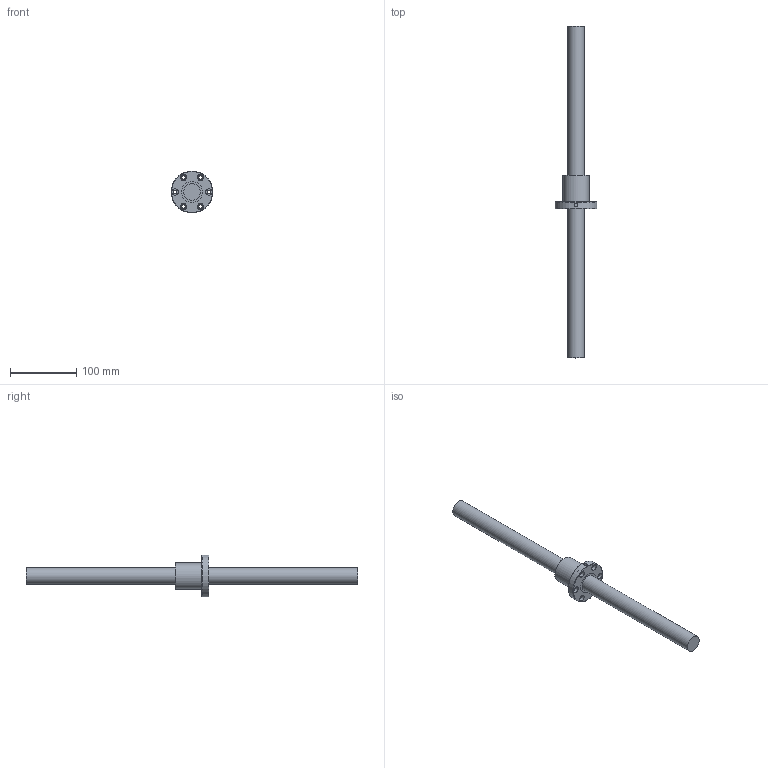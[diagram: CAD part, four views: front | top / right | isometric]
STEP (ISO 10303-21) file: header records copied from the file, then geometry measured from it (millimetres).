
FILE_DESCRIPTION(/* description */ (''),/* implementation_level */ '2;1');
FILE_NAME(/* name */ '2505.stp',/* time_stamp */ '2014-07-14T15:33:11+08:00',/* author */ (''),/* organization */ (''),/* preprocessor_version */ 'ST-DEVELOPER v11',/* originating_system */ 'SIEMENS UGS NX 6.0',/* authorisation */ '');
FILE_SCHEMA (('CONFIG_CONTROL_DESIGN'));
Length unit declared in the file: millimetre
Products named in the file (1): kcc27CCoveh
Bounding box: 63 x 500 x 63 mm (x, y, z)
Volume: 301676.9 mm3; surface area: 60959.5 mm2
Topology: 4 solids, 4 shells, 44 faces, 78 edges, 51 vertices
Faces by surface type: cylinder 23, plane 18, torus 3
Full cylindrical faces by diameter (mm): 5 x1, 5.5 x6, 9.5 x6, 25 x4, 32 x4, 40 x1, 63 x1
Entity records: 1104 total; most frequent: CARTESIAN_POINT 200, DIRECTION 186, EDGE_LOOP 98, ORIENTED_EDGE 98, FACE_BOUND 95, AXIS2_PLACEMENT_3D 93, VERTEX_POINT 49, EDGE_CURVE 49
